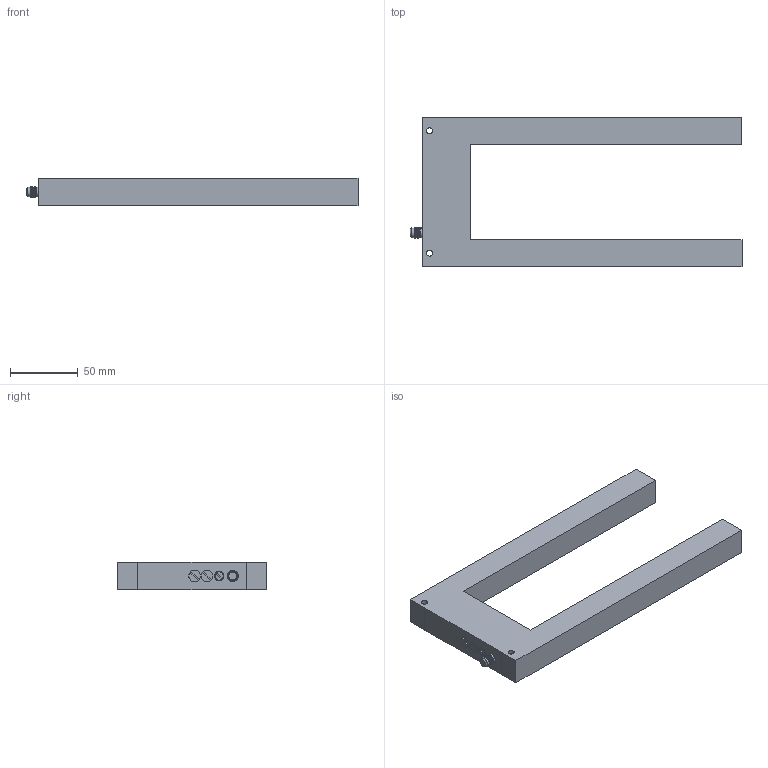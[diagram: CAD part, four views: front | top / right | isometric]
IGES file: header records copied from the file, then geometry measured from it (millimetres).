
Start section: IMSI TurboCAD v14.0
Global section: author: NULL; organization: NULL; date: 20200901.120955; units: millimetre
Bounding box: 244.42 x 110 x 20 mm (x, y, z)
Surface area: 46396.9 mm2 (no closed solid volume)
Topology: 0 solids, 0 shells, 86 faces, 417 edges, 417 vertices
Faces by surface type: revolution 44, extrusion 40, bspline 2
